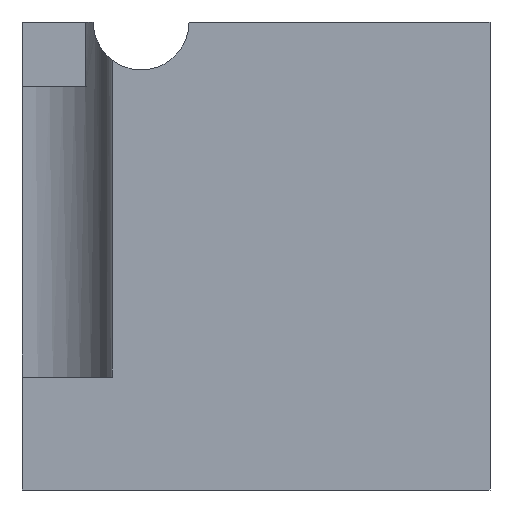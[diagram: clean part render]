
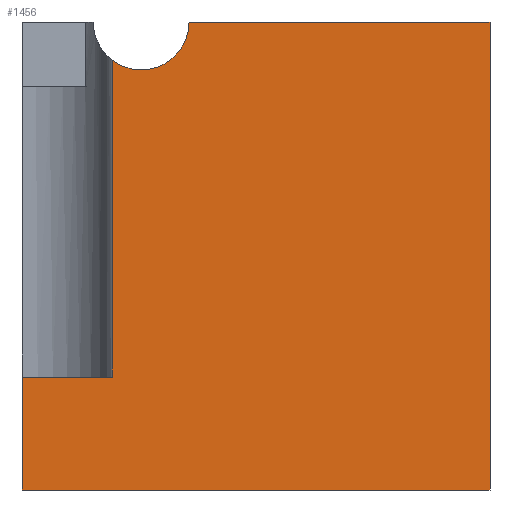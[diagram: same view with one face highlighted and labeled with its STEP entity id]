
A CAD part, front view. The second image highlights one B-rep face of the part: STEP entity #1456.
In plain terms, the highlighted planar face has unit normal (0, -1, 0).
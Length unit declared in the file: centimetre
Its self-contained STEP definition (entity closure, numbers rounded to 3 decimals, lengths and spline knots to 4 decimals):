
#40 = LINE ( 'NONE', #752, #1770 ) ;
#73 = ORIENTED_EDGE ( 'NONE', *, *, #918, .T. ) ;
#92 = DIRECTION ( 'NONE',  ( 1., 0., 0. ) ) ;
#124 = ORIENTED_EDGE ( 'NONE', *, *, #1138, .F. ) ;
#168 = DIRECTION ( 'NONE',  ( 0., 0., -1. ) ) ;
#193 = ORIENTED_EDGE ( 'NONE', *, *, #1588, .F. ) ;
#209 = ORIENTED_EDGE ( 'NONE', *, *, #1743, .T. ) ;
#216 = ORIENTED_EDGE ( 'NONE', *, *, #1408, .F. ) ;
#262 = FACE_OUTER_BOUND ( 'NONE', #676, .T. ) ;
#297 = LINE ( 'NONE', #1422, #1068 ) ;
#362 = CARTESIAN_POINT ( 'NONE',  ( 0., 0., 1000. ) ) ;
#408 = DIRECTION ( 'NONE',  ( 0., 1., 0. ) ) ;
#446 = CARTESIAN_POINT ( 'NONE',  ( 0., 0., 241.4038 ) ) ;
#449 = VECTOR ( 'NONE', #1544, 100. ) ;
#451 = CARTESIAN_POINT ( 'NONE',  ( 254.5275, 0., 1000. ) ) ;
#527 = VERTEX_POINT ( 'NONE', #693 ) ;
#553 = ORIENTED_EDGE ( 'NONE', *, *, #1577, .T. ) ;
#556 = CARTESIAN_POINT ( 'NONE',  ( 254.5275, 0., 1000. ) ) ;
#566 = VECTOR ( 'NONE', #582, 100. ) ;
#576 = DIRECTION ( 'NONE',  ( 0., 0., -1. ) ) ;
#582 = DIRECTION ( 'NONE',  ( 1., 0., 0. ) ) ;
#676 = EDGE_LOOP ( 'NONE', ( #216, #124, #1473, #553, #193, #209, #73, #967 ) ) ;
#685 = CARTESIAN_POINT ( 'NONE',  ( 356.9607, 0., 1000. ) ) ;
#689 = VECTOR ( 'NONE', #1651, 100. ) ;
#693 = CARTESIAN_POINT ( 'NONE',  ( 192.3732, 0., 241.4038 ) ) ;
#714 = CIRCLE ( 'NONE', #747, 102.4331 ) ;
#732 = DIRECTION ( 'NONE',  ( 0., 0., 1. ) ) ;
#747 = AXIS2_PLACEMENT_3D ( 'NONE', #556, #1124, #1550 ) ;
#752 = CARTESIAN_POINT ( 'NONE',  ( 192.3732, 0., 241.4038 ) ) ;
#853 = VECTOR ( 'NONE', #92, 100. ) ;
#908 = VERTEX_POINT ( 'NONE', #1806 ) ;
#918 = EDGE_CURVE ( 'NONE', #1195, #1734, #1518, .T. ) ;
#967 = ORIENTED_EDGE ( 'NONE', *, *, #1557, .F. ) ;
#1036 = DIRECTION ( 'NONE',  ( 0., 0., -1. ) ) ;
#1068 = VECTOR ( 'NONE', #1036, 100. ) ;
#1124 = DIRECTION ( 'NONE',  ( 0., -1., 0. ) ) ;
#1138 = EDGE_CURVE ( 'NONE', #1354, #1364, #1671, .T. ) ;
#1195 = VERTEX_POINT ( 'NONE', #1458 ) ;
#1246 = PLANE ( 'NONE',  #1411 ) ;
#1266 = VERTEX_POINT ( 'NONE', #1316 ) ;
#1316 = CARTESIAN_POINT ( 'NONE',  ( 0., 0., 241.4038 ) ) ;
#1318 = CARTESIAN_POINT ( 'NONE',  ( 1000., 0., 0. ) ) ;
#1354 = VERTEX_POINT ( 'NONE', #1820 ) ;
#1364 = VERTEX_POINT ( 'NONE', #685 ) ;
#1371 = VERTEX_POINT ( 'NONE', #1538 ) ;
#1380 = EDGE_CURVE ( 'NONE', #1371, #1354, #714, .T. ) ;
#1406 = LINE ( 'NONE', #1672, #449 ) ;
#1408 = EDGE_CURVE ( 'NONE', #1364, #908, #1406, .T. ) ;
#1411 = AXIS2_PLACEMENT_3D ( 'NONE', #1811, #408, #732 ) ;
#1422 = CARTESIAN_POINT ( 'NONE',  ( 1000., 0., 1000. ) ) ;
#1445 = LINE ( 'NONE', #446, #566 ) ;
#1456 = ADVANCED_FACE ( 'NONE', ( #262 ), #1246, .F. ) ;
#1458 = CARTESIAN_POINT ( 'NONE',  ( 0., 0., 0. ) ) ;
#1473 = ORIENTED_EDGE ( 'NONE', *, *, #1380, .F. ) ;
#1482 = LINE ( 'NONE', #362, #689 ) ;
#1518 = LINE ( 'NONE', #1655, #853 ) ;
#1524 = AXIS2_PLACEMENT_3D ( 'NONE', #451, #1586, #576 ) ;
#1538 = CARTESIAN_POINT ( 'NONE',  ( 192.3732, 0., 918.579 ) ) ;
#1544 = DIRECTION ( 'NONE',  ( 1., 0., 0. ) ) ;
#1550 = DIRECTION ( 'NONE',  ( 0., 0., -1. ) ) ;
#1557 = EDGE_CURVE ( 'NONE', #908, #1734, #297, .T. ) ;
#1577 = EDGE_CURVE ( 'NONE', #1371, #527, #40, .T. ) ;
#1586 = DIRECTION ( 'NONE',  ( 0., -1., 0. ) ) ;
#1588 = EDGE_CURVE ( 'NONE', #1266, #527, #1445, .T. ) ;
#1651 = DIRECTION ( 'NONE',  ( 0., 0., -1. ) ) ;
#1655 = CARTESIAN_POINT ( 'NONE',  ( 0., 0., 0. ) ) ;
#1671 = CIRCLE ( 'NONE', #1524, 102.4331 ) ;
#1672 = CARTESIAN_POINT ( 'NONE',  ( 0., 0., 1000. ) ) ;
#1734 = VERTEX_POINT ( 'NONE', #1318 ) ;
#1743 = EDGE_CURVE ( 'NONE', #1266, #1195, #1482, .T. ) ;
#1770 = VECTOR ( 'NONE', #168, 100. ) ;
#1806 = CARTESIAN_POINT ( 'NONE',  ( 1000., 0., 1000. ) ) ;
#1811 = CARTESIAN_POINT ( 'NONE',  ( 0., 0., 1000. ) ) ;
#1820 = CARTESIAN_POINT ( 'NONE',  ( 254.5275, 0., 897.5669 ) ) ;
